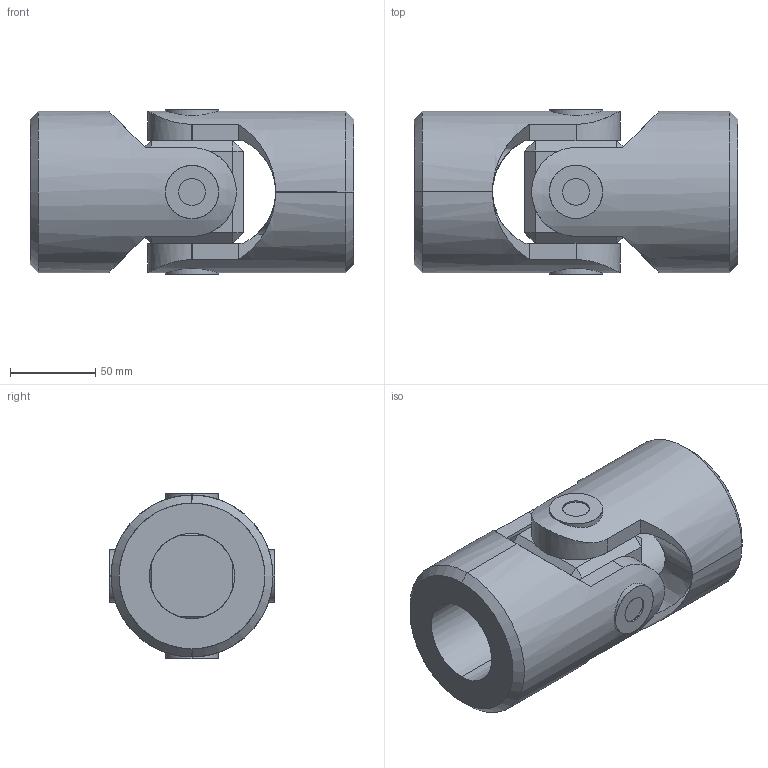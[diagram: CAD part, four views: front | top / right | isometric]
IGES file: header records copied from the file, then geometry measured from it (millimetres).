
Start section: SolidWorks IGES file using analytic representation for surfaces
Global section: file name: C:\Users\IanO\Desktop\R3690_v2\R3690_v2_20231020_IGES\R3690.050-RB.igs; native system: SolidWorks 2019; preprocessor: SolidWorks 2019; author: IanO; date: 231020.152413; units: millimetre
Bounding box: 190 x 96.9 x 96.9 mm (x, y, z)
Surface area: 142922.6 mm2 (no closed solid volume)
Topology: 0 solids, 0 shells, 104 faces, 2984 edges, 2984 vertices
Faces by surface type: bspline 56, revolution 48
